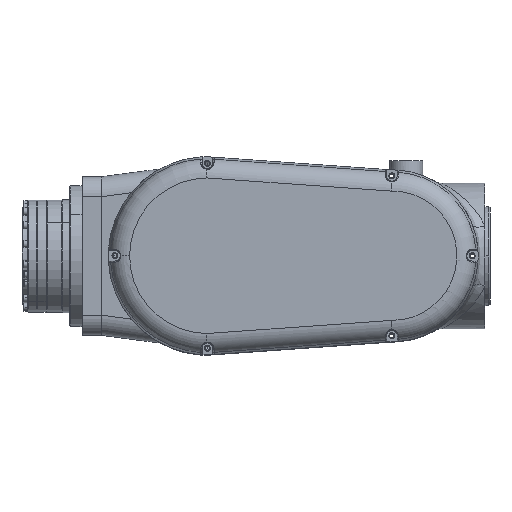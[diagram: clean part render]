
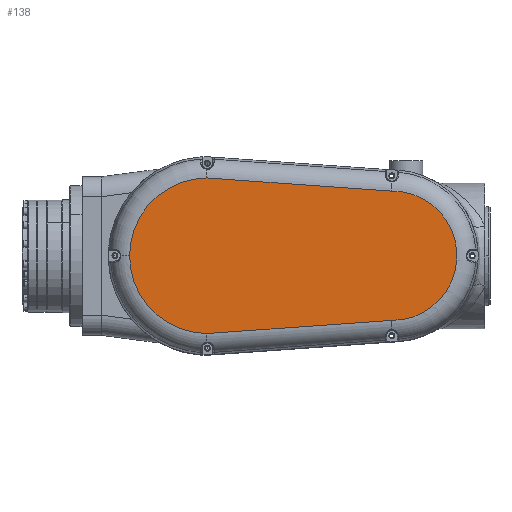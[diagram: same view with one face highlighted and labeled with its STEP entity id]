
A CAD part, top view. The second image highlights one B-rep face of the part: STEP entity #138.
In plain terms, the highlighted planar face has unit normal (0, 0, 1).
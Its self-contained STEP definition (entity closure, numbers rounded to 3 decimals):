
#138 = ADVANCED_FACE ( 'NONE', ( #25816 ), #5168, .F. ) ;
#1800 = EDGE_CURVE ( 'NONE', #25068, #3477, #21663, .T. ) ;
#2791 = LINE ( 'NONE', #11987, #3387 ) ;
#2891 = DIRECTION ( 'NONE',  ( 1., 0., 0. ) ) ;
#3082 = EDGE_CURVE ( 'NONE', #20213, #4226, #6525, .T. ) ;
#3377 = ORIENTED_EDGE ( 'NONE', *, *, #29283, .T. ) ;
#3387 = VECTOR ( 'NONE', #21187, 1000. ) ;
#3477 = VERTEX_POINT ( 'NONE', #21612 ) ;
#3926 = DIRECTION ( 'NONE',  ( -1., 0., 0. ) ) ;
#4226 = VERTEX_POINT ( 'NONE', #14831 ) ;
#5005 = ORIENTED_EDGE ( 'NONE', *, *, #3082, .T. ) ;
#5168 = PLANE ( 'NONE',  #22746 ) ;
#5403 = EDGE_CURVE ( 'NONE', #22350, #20213, #19917, .T. ) ;
#5491 = LINE ( 'NONE', #14656, #14745 ) ;
#6525 = CIRCLE ( 'NONE', #23388, 58.935 ) ;
#6931 = AXIS2_PLACEMENT_3D ( 'NONE', #19902, #29110, #8467 ) ;
#8467 = DIRECTION ( 'NONE',  ( -1., 0., 0. ) ) ;
#8657 = AXIS2_PLACEMENT_3D ( 'NONE', #20515, #29716, #9066 ) ;
#9066 = DIRECTION ( 'NONE',  ( -1., 0., 0. ) ) ;
#11979 = CARTESIAN_POINT ( 'NONE',  ( 139.468, -48.932, 115.5 ) ) ;
#11987 = CARTESIAN_POINT ( 'NONE',  ( -1., 58.965, 115.5 ) ) ;
#14337 = CARTESIAN_POINT ( 'NONE',  ( 0., 0., 115.5 ) ) ;
#14656 = CARTESIAN_POINT ( 'NONE',  ( 139.001, -48.965, 115.5 ) ) ;
#14745 = VECTOR ( 'NONE', #23872, 1000. ) ;
#14831 = CARTESIAN_POINT ( 'NONE',  ( -0.539, -58.932, 115.5 ) ) ;
#15367 = CARTESIAN_POINT ( 'NONE',  ( 0., 0., 115.5 ) ) ;
#15907 = CARTESIAN_POINT ( 'NONE',  ( -0.539, 58.932, 115.5 ) ) ;
#16733 = EDGE_CURVE ( 'NONE', #4226, #25068, #5491, .T. ) ;
#18357 = CARTESIAN_POINT ( 'NONE',  ( -58.935, 0., 115.5 ) ) ;
#19306 = EDGE_LOOP ( 'NONE', ( #3377, #20259, #5005, #28013, #27411 ) ) ;
#19902 = CARTESIAN_POINT ( 'NONE',  ( 0., 0., 115.5 ) ) ;
#19917 = CIRCLE ( 'NONE', #6931, 58.935 ) ;
#20213 = VERTEX_POINT ( 'NONE', #18357 ) ;
#20259 = ORIENTED_EDGE ( 'NONE', *, *, #5403, .T. ) ;
#20515 = CARTESIAN_POINT ( 'NONE',  ( 140., 0., 115.5 ) ) ;
#21187 = DIRECTION ( 'NONE',  ( -0.997, 0.071, 0. ) ) ;
#21612 = CARTESIAN_POINT ( 'NONE',  ( 139.468, 48.932, 115.5 ) ) ;
#21663 = CIRCLE ( 'NONE', #8657, 48.935 ) ;
#22350 = VERTEX_POINT ( 'NONE', #15907 ) ;
#22746 = AXIS2_PLACEMENT_3D ( 'NONE', #14337, #23567, #2891 ) ;
#23388 = AXIS2_PLACEMENT_3D ( 'NONE', #15367, #24598, #3926 ) ;
#23567 = DIRECTION ( 'NONE',  ( 0., 0., -1. ) ) ;
#23872 = DIRECTION ( 'NONE',  ( 0.997, 0.071, 0. ) ) ;
#24598 = DIRECTION ( 'NONE',  ( 0., 0., 1. ) ) ;
#25068 = VERTEX_POINT ( 'NONE', #11979 ) ;
#25816 = FACE_OUTER_BOUND ( 'NONE', #19306, .T. ) ;
#27411 = ORIENTED_EDGE ( 'NONE', *, *, #1800, .T. ) ;
#28013 = ORIENTED_EDGE ( 'NONE', *, *, #16733, .T. ) ;
#29110 = DIRECTION ( 'NONE',  ( 0., 0., 1. ) ) ;
#29283 = EDGE_CURVE ( 'NONE', #3477, #22350, #2791, .T. ) ;
#29716 = DIRECTION ( 'NONE',  ( 0., 0., 1. ) ) ;
